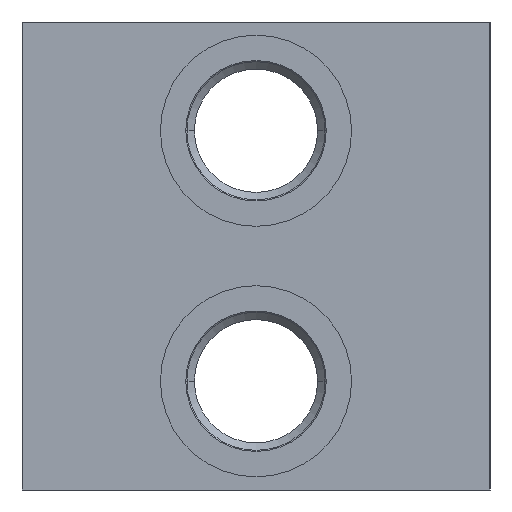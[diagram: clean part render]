
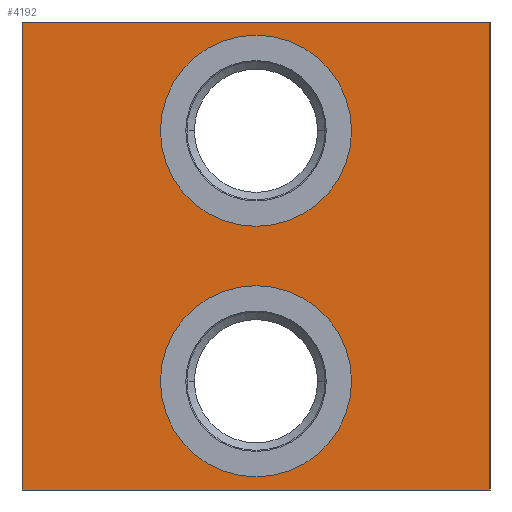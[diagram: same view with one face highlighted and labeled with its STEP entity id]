
A CAD part, left-side view. The second image highlights one B-rep face of the part: STEP entity #4192.
In plain terms, the highlighted planar face has unit normal (-1, 0, 0).
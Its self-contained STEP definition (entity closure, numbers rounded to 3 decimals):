
#30=DIRECTION('',(0.,-1.,0.));
#31=VECTOR('',#30,71.);
#32=CARTESIAN_POINT('',(0.,71.,0.));
#33=LINE('',#32,#31);
#147=DIRECTION('',(0.,0.,-1.));
#148=VECTOR('',#147,71.);
#149=CARTESIAN_POINT('',(0.,0.,0.));
#150=LINE('',#149,#148);
#836=DIRECTION('',(0.,0.,-1.));
#837=VECTOR('',#836,71.);
#838=CARTESIAN_POINT('',(0.,71.,0.));
#839=LINE('',#838,#837);
#843=CARTESIAN_POINT('',(0.,35.5,-54.5));
#844=DIRECTION('',(1.,0.,0.));
#845=DIRECTION('',(0.,-1.,0.));
#846=AXIS2_PLACEMENT_3D('',#843,#844,#845);
#851=CARTESIAN_POINT('',(0.,35.5,-54.5));
#852=DIRECTION('',(1.,0.,0.));
#853=DIRECTION('',(0.,1.,0.));
#854=AXIS2_PLACEMENT_3D('',#851,#852,#853);
#859=CARTESIAN_POINT('',(0.,35.5,-16.5));
#860=DIRECTION('',(1.,0.,0.));
#861=DIRECTION('',(0.,-1.,0.));
#862=AXIS2_PLACEMENT_3D('',#859,#860,#861);
#867=CARTESIAN_POINT('',(0.,35.5,-16.5));
#868=DIRECTION('',(1.,0.,0.));
#869=DIRECTION('',(0.,1.,0.));
#870=AXIS2_PLACEMENT_3D('',#867,#868,#869);
#896=DIRECTION('',(0.,-1.,0.));
#897=VECTOR('',#896,71.);
#898=CARTESIAN_POINT('',(0.,71.,-71.));
#899=LINE('',#898,#897);
#3447=CARTESIAN_POINT('',(0.,0.,0.));
#3449=VERTEX_POINT('',#3447);
#3453=CARTESIAN_POINT('',(0.,71.,0.));
#3454=VERTEX_POINT('',#3453);
#3455=CARTESIAN_POINT('',(0.,0.,-71.));
#3457=VERTEX_POINT('',#3455);
#3461=CARTESIAN_POINT('',(0.,71.,-71.));
#3462=VERTEX_POINT('',#3461);
#3491=CARTESIAN_POINT('',(0.,21.,-54.5));
#3492=CARTESIAN_POINT('',(0.,50.,-54.5));
#3493=VERTEX_POINT('',#3491);
#3494=VERTEX_POINT('',#3492);
#3507=CARTESIAN_POINT('',(0.,21.,-16.5));
#3508=CARTESIAN_POINT('',(0.,50.,-16.5));
#3509=VERTEX_POINT('',#3507);
#3510=VERTEX_POINT('',#3508);
#4168=CARTESIAN_POINT('',(0.,71.,0.));
#4169=DIRECTION('',(-1.,0.,0.));
#4170=DIRECTION('',(0.,-1.,0.));
#4171=AXIS2_PLACEMENT_3D('',#4168,#4169,#4170);
#4172=PLANE('',#4171);
#4173=ORIENTED_EDGE('',*,*,#3896,.T.);
#4174=ORIENTED_EDGE('',*,*,#3958,.T.);
#4176=ORIENTED_EDGE('',*,*,#4175,.F.);
#4177=ORIENTED_EDGE('',*,*,#4045,.F.);
#4178=EDGE_LOOP('',(#4173,#4174,#4176,#4177));
#4179=FACE_OUTER_BOUND('',#4178,.F.);
#4181=ORIENTED_EDGE('',*,*,#4180,.F.);
#4183=ORIENTED_EDGE('',*,*,#4182,.F.);
#4184=EDGE_LOOP('',(#4181,#4183));
#4185=FACE_BOUND('',#4184,.F.);
#4187=ORIENTED_EDGE('',*,*,#4186,.F.);
#4189=ORIENTED_EDGE('',*,*,#4188,.F.);
#4190=EDGE_LOOP('',(#4187,#4189));
#4191=FACE_BOUND('',#4190,.F.);
#847=CIRCLE('',#846,14.5);
#855=CIRCLE('',#854,14.5);
#863=CIRCLE('',#862,14.5);
#871=CIRCLE('',#870,14.5);
#3896=EDGE_CURVE('',#3454,#3449,#33,.T.);
#3958=EDGE_CURVE('',#3449,#3457,#150,.T.);
#4045=EDGE_CURVE('',#3454,#3462,#839,.T.);
#4175=EDGE_CURVE('',#3462,#3457,#899,.T.);
#4180=EDGE_CURVE('',#3493,#3494,#847,.T.);
#4182=EDGE_CURVE('',#3494,#3493,#855,.T.);
#4186=EDGE_CURVE('',#3509,#3510,#863,.T.);
#4188=EDGE_CURVE('',#3510,#3509,#871,.T.);
#4192=ADVANCED_FACE('',(#4179,#4185,#4191),#4172,.T.);
